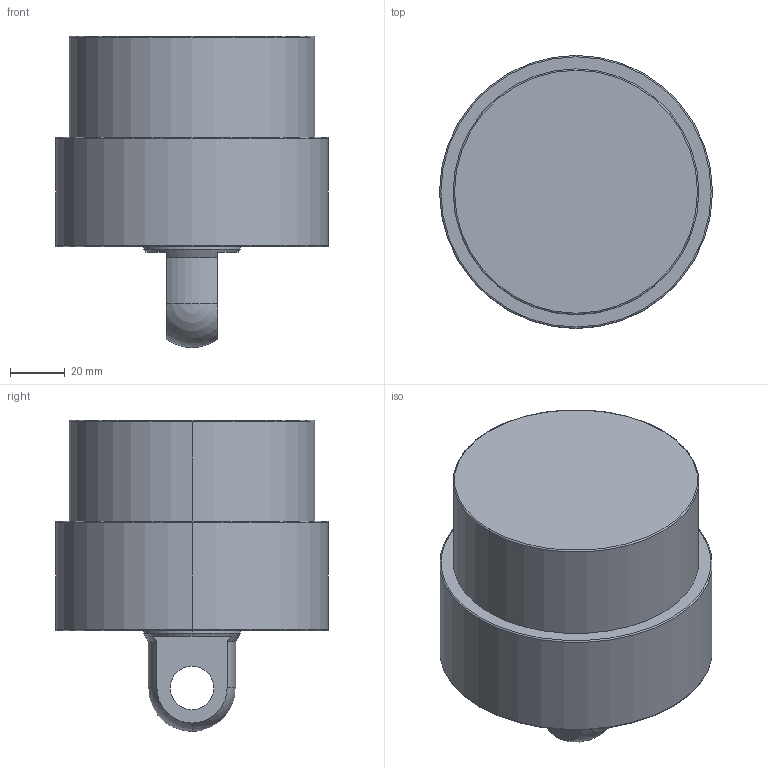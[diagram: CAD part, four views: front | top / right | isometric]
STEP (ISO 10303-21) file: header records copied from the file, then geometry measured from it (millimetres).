
FILE_DESCRIPTION (( 'STEP AP203' ), '1' );
FILE_NAME ('CLLU-090CP-015.STEP', '2020-01-13T03:12:11', ( '' ), ( '' ), 'SwSTEP 2.0', 'SolidWorks 2015', '' );
FILE_SCHEMA (( 'CONFIG_CONTROL_DESIGN' ));
Length unit declared in the file: millimetre
Products named in the file (1): CLLU-090CP-015
Bounding box: 100 x 100 x 114 mm (x, y, z)
Volume: 559226.9 mm3; surface area: 44596.4 mm2
Topology: 1 solids, 1 shells, 57 faces, 134 edges, 77 vertices
Faces by surface type: cylinder 22, cone 18, plane 9, torus 6, sphere 2
Entity records: 1643 total; most frequent: DIRECTION 308, CARTESIAN_POINT 267, ORIENTED_EDGE 244, AXIS2_PLACEMENT_3D 132, EDGE_CURVE 122, VERTEX_POINT 75, CIRCLE 74, EDGE_LOOP 67
